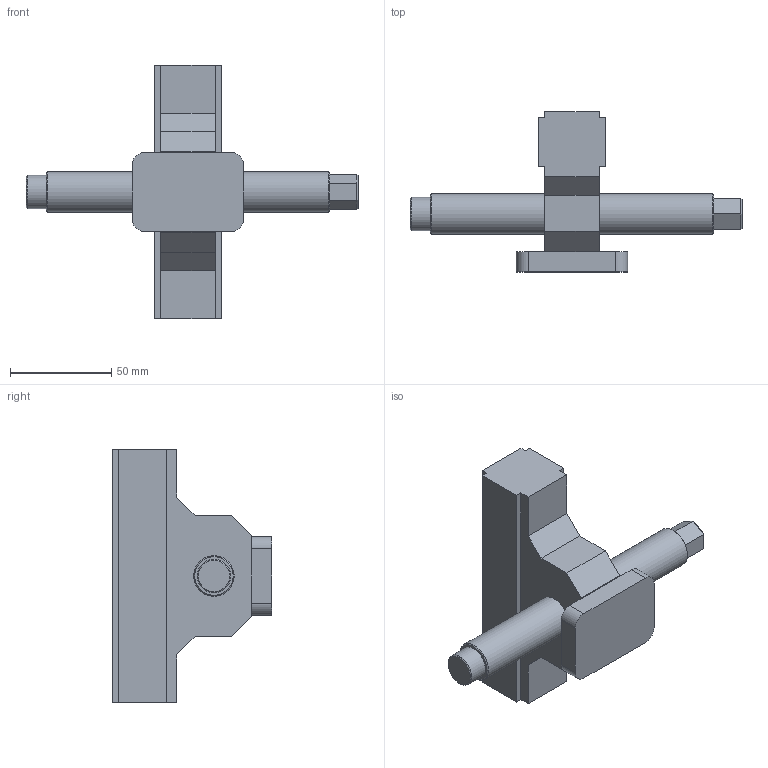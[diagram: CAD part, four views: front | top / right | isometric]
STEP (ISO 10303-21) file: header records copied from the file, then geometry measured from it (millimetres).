
FILE_DESCRIPTION (( 'STEP AP214' ), '1' );
FILE_NAME ('48155-TG2527.STEP', '2020-03-24T14:58:21', ( '' ), ( '' ), 'SwSTEP 2.0', 'SolidWorks 2019', '' );
FILE_SCHEMA (( 'AUTOMOTIVE_DESIGN' ));
Length unit declared in the file: millimetre
Products named in the file (1): 48155-TG2527
Bounding box: 164 x 79 x 125 mm (x, y, z)
Volume: 246600.6 mm3; surface area: 36479.2 mm2
Topology: 1 solids, 1 shells, 69 faces, 169 edges, 107 vertices
Faces by surface type: plane 59, cylinder 7, cone 3
Full cylindrical faces by diameter (mm): 16.5 x1, 20 x2
Entity records: 2454 total; most frequent: CARTESIAN_POINT 336, ORIENTED_EDGE 322, DIRECTION 318, EDGE_CURVE 161, VECTOR 144, LINE 144, VERTEX_POINT 105, AXIS2_PLACEMENT_3D 87
